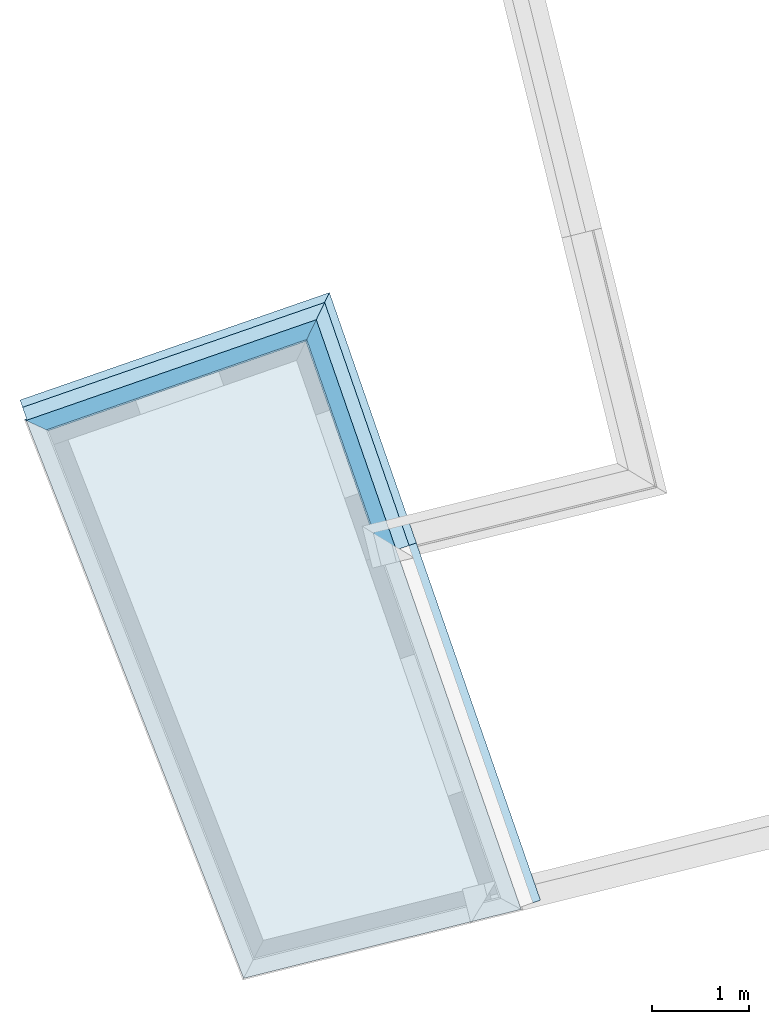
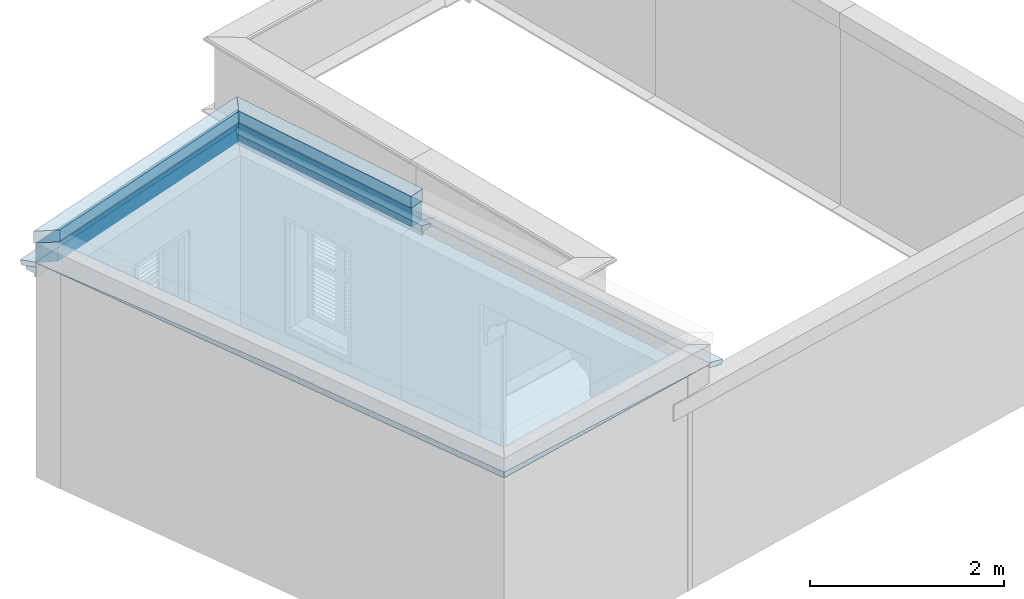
# One storey, part 5 of 5: 10 roofs.
"""IFC4 building model written with IfcOpenShell, lengths in metres."""

from ifc_helpers import new_model, si_unit, frame, origin, origin_with_axes, place, context, subcontext, project, spatial, polyline, outline, extrude, clip, halfspace, faceted_brep, material_profile, profile_set, profile_usage, type_object, element, save


model = new_model("IFC4")

# Units and contexts
model_context = context("Model", 3, world=origin_with_axes())
body_context = subcontext(model_context, "Body", "Model", "MODEL_VIEW")
ifc_project = project(units=[si_unit("PLANEANGLEUNIT", "RADIAN"), si_unit("MASSUNIT", "GRAM", prefix="KILO"), si_unit("FORCEUNIT", "NEWTON", prefix="KILO"), si_unit("LENGTHUNIT", "METRE"), si_unit("AREAUNIT", "SQUARE_METRE"), si_unit("VOLUMEUNIT", "CUBIC_METRE")], contexts=[model_context, model_context])

# Site, building, storey
site_placement = place(None, origin_with_axes())
site = spatial("IfcSite", under=ifc_project, at=site_placement, Name="Site plot-1", CompositionType="ELEMENT")
building_placement = place(None, origin_with_axes())
building = spatial("IfcBuilding", under=site, at=building_placement, Name="Building plot-1", CompositionType="ELEMENT")
storey_placement = place(None, frame((0.0, 0.0, 5.4), z_axis=(0.0, 0.0, 1.0), x_axis=(1.0, 0.0, 0.0)))
storey = spatial("IfcBuildingStorey", under=building, at=storey_placement, Name="plot-1 2", CompositionType="ELEMENT", Elevation=5.4)

# Roofs
ifc_material_profile_1 = material_profile(None, outline(polyline([(0.25, 0.0), (0.25, 0.245), (0.09, 0.245), (0.09, 0.0), (0.25, 0.0)])))
ifc_profile_set_1 = profile_set([ifc_material_profile_1])
ifc_profile_usage_1 = profile_usage(ifc_profile_set_1)
roof_type_1 = type_object("IfcRoofType", Name="roofline_0", PredefinedType="FREEFORM", material=ifc_profile_set_1)
roof_1_placement = place(storey_placement, frame((-0.852454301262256, 20.9344763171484, 2.7), z_axis=(0.328085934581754, -0.944647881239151, 0.0), x_axis=(0.944647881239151, 0.328085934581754, 0.0)))
element("IfcRoof", 1, at=roof_1_placement, inside=storey, type_object=roof_type_1, material=ifc_profile_usage_1, Name="roofline_0", context=body_context, shape_type="Clipping", body=[
    clip(clip(extrude(outline(polyline([(0.25, 0.0), (0.25, 0.245), (0.09, 0.245), (0.09, 0.0), (0.25, 0.0)])), origin_with_axes(), (0.0, 0.0, 1.0), 4.26575725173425), halfspace(frame((0.0, 0.0, 3.26575725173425), z_axis=(-4.05803522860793e-15, 0.0, -1.0), x_axis=(0.0, 1.0, 0.0)), True)), halfspace(frame((0.0, 0.0, 1.0), z_axis=(-0.707106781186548, 0.0, -0.707106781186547), x_axis=(0.0, 1.0, 0.0)), False)),
])
ifc_profile_usage_2 = profile_usage(ifc_profile_set_1)
roof_2_placement = place(storey_placement, frame((-3.98289152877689, 18.7886477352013, 2.7), z_axis=(0.944647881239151, 0.328085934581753, 0.0), x_axis=(-0.328085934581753, 0.944647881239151, 0.0)))
element("IfcRoof", 2, at=roof_2_placement, inside=storey, type_object=roof_type_1, material=ifc_profile_usage_2, Name="roofline_0", context=body_context, shape_type="Clipping", body=[
    clip(clip(extrude(outline(polyline([(0.25, 0.0), (0.25, 0.245), (0.09, 0.245), (0.09, 0.0), (0.25, 0.0)])), origin_with_axes(), (0.0, 0.0, 1.0), 4.66117707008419), halfspace(frame((0.0, 0.0, 3.66117707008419), z_axis=(0.707106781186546, 0.0, -0.707106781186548), x_axis=(0.0, 1.0, 0.0)), True)), halfspace(frame((0.0, 0.0, 1.0), z_axis=(-0.720265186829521, 0.0, -0.693698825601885), x_axis=(0.0, 1.0, 0.0)), False)),
])
ifc_material_profile_2 = material_profile(None, outline(polyline([(0.265, 0.245), (0.265, 0.395), (0.075, 0.395), (0.075, 0.245), (0.265, 0.245)])))
ifc_profile_set_2 = profile_set([ifc_material_profile_2])
ifc_profile_usage_3 = profile_usage(ifc_profile_set_2)
roof_type_2 = type_object("IfcRoofType", Name="roofline_1", PredefinedType="FREEFORM", material=ifc_profile_set_2)
roof_3_placement = place(storey_placement, frame((-0.852454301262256, 20.9344763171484, 2.7), z_axis=(0.328085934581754, -0.944647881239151, 0.0), x_axis=(0.944647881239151, 0.328085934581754, 0.0)))
element("IfcRoof", 3, at=roof_3_placement, inside=storey, type_object=roof_type_2, material=ifc_profile_usage_3, Name="roofline_1", context=body_context, shape_type="Clipping", body=[
    clip(clip(extrude(outline(polyline([(0.265, 0.245), (0.265, 0.395), (0.075, 0.395), (0.075, 0.245), (0.265, 0.245)])), origin_with_axes(), (0.0, 0.0, 1.0), 4.26575725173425), halfspace(frame((0.0, 0.0, 3.26575725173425), z_axis=(-4.05803522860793e-15, 0.0, -1.0), x_axis=(0.0, 1.0, 0.0)), True)), halfspace(frame((0.0, 0.0, 1.0), z_axis=(-0.707106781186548, 0.0, -0.707106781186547), x_axis=(0.0, 1.0, 0.0)), False)),
])
ifc_profile_usage_4 = profile_usage(ifc_profile_set_2)
roof_4_placement = place(storey_placement, frame((-3.98289152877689, 18.7886477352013, 2.7), z_axis=(0.944647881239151, 0.328085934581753, 0.0), x_axis=(-0.328085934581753, 0.944647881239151, 0.0)))
element("IfcRoof", 4, at=roof_4_placement, inside=storey, type_object=roof_type_2, material=ifc_profile_usage_4, Name="roofline_1", context=body_context, shape_type="Clipping", body=[
    clip(clip(extrude(outline(polyline([(0.265, 0.245), (0.265, 0.395), (0.075, 0.395), (0.075, 0.245), (0.265, 0.245)])), origin_with_axes(), (0.0, 0.0, 1.0), 4.66117707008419), halfspace(frame((0.0, 0.0, 3.66117707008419), z_axis=(0.707106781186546, 0.0, -0.707106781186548), x_axis=(0.0, 1.0, 0.0)), True)), halfspace(frame((0.0, 0.0, 1.0), z_axis=(-0.720265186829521, 0.0, -0.693698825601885), x_axis=(0.0, 1.0, 0.0)), False)),
])
ifc_material_profile_3 = material_profile(None, outline(polyline([(0.25, -0.19), (0.275, -0.19), (0.275, -0.15), (0.39, -0.15), (0.39, -0.107509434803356), (0.25, -0.0629639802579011), (0.25, -0.19)])))
ifc_profile_set_3 = profile_set([ifc_material_profile_3])
ifc_profile_usage_5 = profile_usage(ifc_profile_set_3)
roof_type_3 = type_object("IfcRoofType", Name="eaves_0", PredefinedType="FREEFORM", material=ifc_profile_set_3)
roof_5_placement = place(storey_placement, frame((-0.852454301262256, 20.9344763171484, 2.7), z_axis=(0.328085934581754, -0.944647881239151, 0.0), x_axis=(0.944647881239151, 0.328085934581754, 0.0)))
element("IfcRoof", 5, at=roof_5_placement, inside=storey, type_object=roof_type_3, material=ifc_profile_usage_5, Name="eaves_0", context=body_context, shape_type="Clipping", body=[
    clip(clip(extrude(outline(polyline([(0.25, -0.19), (0.275, -0.19), (0.275, -0.15), (0.39, -0.15), (0.39, -0.107509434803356), (0.25, -0.0629639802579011), (0.25, -0.19)])), origin_with_axes(), (0.0, 0.0, 1.0), 4.26575725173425), halfspace(frame((0.0, 0.0, 3.26575725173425), z_axis=(-4.05803522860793e-15, 0.0, -1.0), x_axis=(0.0, 1.0, 0.0)), True)), halfspace(frame((0.0, 0.0, 1.0), z_axis=(-0.707106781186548, 0.0, -0.707106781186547), x_axis=(0.0, 1.0, 0.0)), False)),
])
ifc_profile_usage_6 = profile_usage(ifc_profile_set_3)
roof_6_placement = place(storey_placement, frame((-4.21905349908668, 18.7066262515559, 2.7), z_axis=(0.944647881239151, 0.328085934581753, 0.0), x_axis=(-0.328085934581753, 0.944647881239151, 0.0)))
element("IfcRoof", 6, at=roof_6_placement, inside=storey, type_object=roof_type_3, material=ifc_profile_usage_6, Name="eaves_0", context=body_context, shape_type="Clipping", body=[
    clip(clip(extrude(outline(polyline([(0.25, -0.19), (0.275, -0.19), (0.275, -0.15), (0.39, -0.15), (0.39, -0.107509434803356), (0.25, -0.0629639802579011), (0.25, -0.19)])), origin_with_axes(), (0.0, 0.0, 1.0), 4.91117707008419), halfspace(frame((0.0, 0.0, 3.91117707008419), z_axis=(0.707106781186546, 0.0, -0.707106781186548), x_axis=(0.0, 1.0, 0.0)), True)), halfspace(frame((0.0, 0.0, 1.0), z_axis=(3.82856869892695e-16, 0.0, -1.0), x_axis=(0.0, 1.0, 0.0)), False)),
])
ifc_material_profile_4 = material_profile(None, outline(polyline([(0.25, -0.0629639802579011), (0.451807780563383, -0.127175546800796), (0.47, -0.07), (0.25, 0.0), (0.25, -0.0629639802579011)])))
ifc_profile_set_4 = profile_set([ifc_material_profile_4])
ifc_profile_usage_7 = profile_usage(ifc_profile_set_4)
roof_type_4 = type_object("IfcRoofType", Name="eaves_1", PredefinedType="FREEFORM", material=ifc_profile_set_4)
roof_7_placement = place(storey_placement, frame((-0.109091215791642, 18.7941335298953, 2.7), z_axis=(0.328085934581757, -0.94464788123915, 0.0), x_axis=(0.94464788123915, 0.328085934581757, 0.0)))
element("IfcRoof", 7, at=roof_7_placement, inside=storey, type_object=roof_type_4, material=ifc_profile_usage_7, Name="eaves_1", context=body_context, shape_type="Clipping", body=[
    clip(clip(extrude(outline(polyline([(0.25, -0.0629639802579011), (0.451807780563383, -0.127175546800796), (0.47, -0.07), (0.25, 0.0), (0.25, -0.0629639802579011)])), origin_with_axes(), (0.0, 0.0, 1.0), 5.90336914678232), halfspace(frame((0.0, 0.0, 4.90336914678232), z_axis=(-6.12323399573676e-17, 0.0, -1.0), x_axis=(0.0, 1.0, 0.0)), True)), halfspace(frame((0.0, 0.0, 1.0), z_axis=(-2.83276944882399e-16, 0.0, -1.0), x_axis=(0.0, 1.0, 0.0)), False)),
])
ifc_profile_usage_8 = profile_usage(ifc_profile_set_4)
roof_8_placement = place(storey_placement, frame((-0.852454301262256, 20.9344763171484, 2.7), z_axis=(0.328085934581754, -0.944647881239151, 0.0), x_axis=(0.944647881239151, 0.328085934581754, 0.0)))
element("IfcRoof", 8, at=roof_8_placement, inside=storey, type_object=roof_type_4, material=ifc_profile_usage_8, Name="eaves_1", context=body_context, shape_type="Clipping", body=[
    clip(clip(extrude(outline(polyline([(0.25, -0.0629639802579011), (0.451807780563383, -0.127175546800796), (0.47, -0.07), (0.25, 0.0), (0.25, -0.0629639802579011)])), origin_with_axes(), (0.0, 0.0, 1.0), 4.26575725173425), halfspace(frame((0.0, 0.0, 3.26575725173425), z_axis=(-4.05803522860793e-15, 0.0, -1.0), x_axis=(0.0, 1.0, 0.0)), True)), halfspace(frame((0.0, 0.0, 1.0), z_axis=(-0.707106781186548, 0.0, -0.707106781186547), x_axis=(0.0, 1.0, 0.0)), False)),
])
ifc_profile_usage_9 = profile_usage(ifc_profile_set_4)
roof_9_placement = place(storey_placement, frame((-4.21905349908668, 18.7066262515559, 2.7), z_axis=(0.944647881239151, 0.328085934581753, 0.0), x_axis=(-0.328085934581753, 0.944647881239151, 0.0)))
element("IfcRoof", 9, at=roof_9_placement, inside=storey, type_object=roof_type_4, material=ifc_profile_usage_9, Name="eaves_1", context=body_context, shape_type="Clipping", body=[
    clip(clip(extrude(outline(polyline([(0.25, -0.0629639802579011), (0.451807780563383, -0.127175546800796), (0.47, -0.07), (0.25, 0.0), (0.25, -0.0629639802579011)])), origin_with_axes(), (0.0, 0.0, 1.0), 4.91117707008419), halfspace(frame((0.0, 0.0, 3.91117707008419), z_axis=(0.707106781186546, 0.0, -0.707106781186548), x_axis=(0.0, 1.0, 0.0)), True)), halfspace(frame((0.0, 0.0, 1.0), z_axis=(3.82856869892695e-16, 0.0, -1.0), x_axis=(0.0, 1.0, 0.0)), False)),
])
roof_10_placement = place(building_placement, origin())
element("IfcRoof", 10, at=roof_10_placement, inside=storey, Name="Roof", PredefinedType="FREEFORM", context=body_context, shape_type="Brep", body=[
    faceted_brep([(1.743592, 14.221754, 8.1), (-0.370228, 20.308012, 8.1), (-2.254367, 16.418691, 8.176397), (-1.12, 13.51, 8.173465), (-1.12, 13.51, 8.1), (-3.365471, 19.267733, 8.1)], [[[0, 1, 2, 3]], [[4, 5, 1, 0]], [[3, 4, 0]], [[2, 1, 5]], [[2, 5, 4, 3]]]),
])

save(model, "model.ifc")
